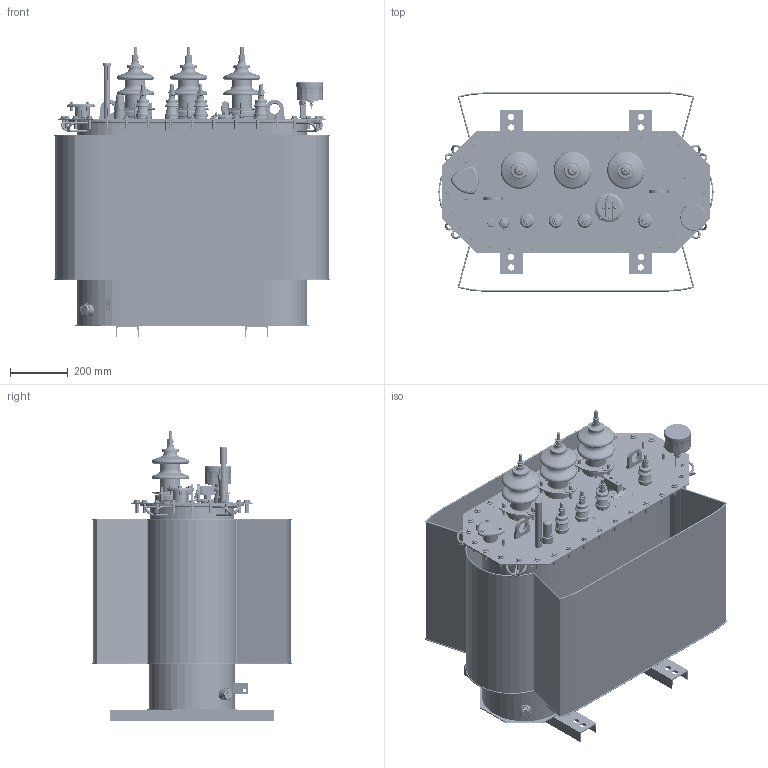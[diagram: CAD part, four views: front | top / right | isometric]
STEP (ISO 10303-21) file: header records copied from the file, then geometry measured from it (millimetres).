
FILE_DESCRIPTION(/* description */ (''),/* implementation_level */ '2;1');
FILE_NAME(/* name */ 'D:\SEARCHWORK\Готовые\\X2\0413043E0442043E0432044B0435\X0\ ТМГ\ТМГ11-100-10\ТМГ11-100-10.stp',/* time_stamp */ '2020-03-25T14:08:53+03:00',/* author */ ('55505'),/* organization */ (''),/* preprocessor_version */ 'ST-DEVELOPER v15.2',/* originating_system */ 'Autodesk Inventor 2014',/* authorisation */ '');
FILE_SCHEMA (('AUTOMOTIVE_DESIGN { 1 0 10303 214 3 1 1 }'));
Products named in the file (1): ТМГ11-100-10
Bounding box: 955 x 690.96 x 1009.71 mm (x, y, z)
Volume: 11818455.8 mm3; surface area: 7264205.9 mm2
Topology: 18 solids, 43 shells, 7706 faces, 19241 edges, 11766 vertices
Faces by surface type: plane 3056, bspline 1866, cylinder 1587, torus 653, sphere 279, cone 265
Full cylindrical faces by diameter (mm): 0.5 x1, 1.5 x3, 1.6 x3, 1.827 x2, 2.5 x6, 3 x3, 3.1 x2, 3.8 x4, 3.96 x2, 4 x6, 4.134 x1, 4.3 x2, 4.42 x3, 4.917 x2, 4.95 x1, 5 x18, 5.3 x3, 5.94 x5, 6 x10, 6.2 x5, 6.4 x3, 6.5 x1, 7 x4, 7.1 x2, 7.159 x1, 7.5 x1, 7.92 x3, 8 x24, 8.4 x3, 8.5 x3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
Entity records: 267315 total; most frequent: CARTESIAN_POINT 95446, ORIENTED_EDGE 35164, DIRECTION 29766, EDGE_CURVE 17444, VERTEX_POINT 11444, AXIS2_PLACEMENT_3D 11097, EDGE_LOOP 9668, ADVANCED_FACE 7705
